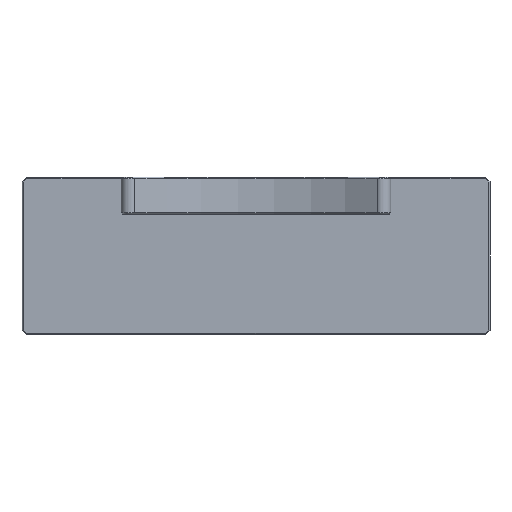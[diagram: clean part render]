
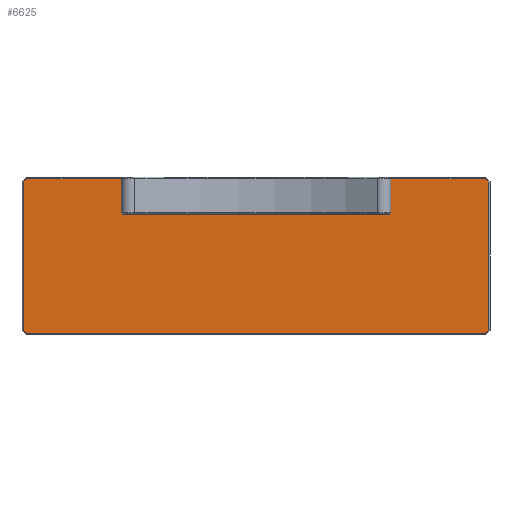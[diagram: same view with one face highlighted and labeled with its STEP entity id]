
A CAD part, front view. The second image highlights one B-rep face of the part: STEP entity #6625.
In plain terms, the highlighted planar face has unit normal (0, -1, 0).
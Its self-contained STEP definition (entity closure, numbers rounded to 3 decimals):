
#225 = CARTESIAN_POINT ( 'NONE',  ( 82., -7.15, -53.793 ) ) ;
#301 = ORIENTED_EDGE ( 'NONE', *, *, #614, .T. ) ;
#323 = EDGE_CURVE ( 'NONE', #6034, #3959, #6259, .T. ) ;
#361 = ORIENTED_EDGE ( 'NONE', *, *, #6556, .T. ) ;
#386 = VERTEX_POINT ( 'NONE', #3147 ) ;
#435 = DIRECTION ( 'NONE',  ( -1., 0., 0. ) ) ;
#437 = VERTEX_POINT ( 'NONE', #2666 ) ;
#477 = CARTESIAN_POINT ( 'NONE',  ( -47.5, -7.15, -12.5 ) ) ;
#529 = EDGE_CURVE ( 'NONE', #757, #2270, #2200, .T. ) ;
#614 = EDGE_CURVE ( 'NONE', #6034, #386, #4853, .T. ) ;
#631 = CARTESIAN_POINT ( 'NONE',  ( -80.793, -7.15, -0.5 ) ) ;
#678 = CARTESIAN_POINT ( 'NONE',  ( -47.5, -7.15, -13. ) ) ;
#757 = VERTEX_POINT ( 'NONE', #6194 ) ;
#806 = ORIENTED_EDGE ( 'NONE', *, *, #5707, .T. ) ;
#817 = CARTESIAN_POINT ( 'NONE',  ( -82.5, -7.15, -55.5 ) ) ;
#999 = VECTOR ( 'NONE', #2769, 1000. ) ;
#1048 = EDGE_CURVE ( 'NONE', #6049, #3030, #6252, .T. ) ;
#1085 = CARTESIAN_POINT ( 'NONE',  ( 47.5, -7.15, -13. ) ) ;
#1107 = LINE ( 'NONE', #5205, #3964 ) ;
#1157 = CARTESIAN_POINT ( 'NONE',  ( -81.396, -7.15, -54.396 ) ) ;
#1242 = CARTESIAN_POINT ( 'NONE',  ( 47.5, -7.15, -0.5 ) ) ;
#1422 = VERTEX_POINT ( 'NONE', #2051 ) ;
#1464 = DIRECTION ( 'NONE',  ( 0., 0., -1. ) ) ;
#1477 = CARTESIAN_POINT ( 'NONE',  ( 26.646, -7.15, 53.646 ) ) ;
#1587 = EDGE_CURVE ( 'NONE', #6733, #757, #5335, .T. ) ;
#1651 = LINE ( 'NONE', #477, #2806 ) ;
#1660 = ORIENTED_EDGE ( 'NONE', *, *, #1048, .T. ) ;
#1665 = VECTOR ( 'NONE', #5668, 1000. ) ;
#1703 = CARTESIAN_POINT ( 'NONE',  ( -47.5, -7.15, -13. ) ) ;
#2021 = EDGE_CURVE ( 'NONE', #1422, #6049, #1651, .T. ) ;
#2051 = CARTESIAN_POINT ( 'NONE',  ( -47., -7.15, -13. ) ) ;
#2063 = VECTOR ( 'NONE', #5484, 1000. ) ;
#2127 = CARTESIAN_POINT ( 'NONE',  ( 80.793, -7.15, -0.5 ) ) ;
#2200 = LINE ( 'NONE', #1157, #5516 ) ;
#2214 = LINE ( 'NONE', #5808, #2879 ) ;
#2248 = ORIENTED_EDGE ( 'NONE', *, *, #3187, .T. ) ;
#2270 = VERTEX_POINT ( 'NONE', #4937 ) ;
#2459 = ORIENTED_EDGE ( 'NONE', *, *, #4884, .T. ) ;
#2485 = LINE ( 'NONE', #5698, #3063 ) ;
#2624 = DIRECTION ( 'NONE',  ( 0., 0., 1. ) ) ;
#2666 = CARTESIAN_POINT ( 'NONE',  ( 80.793, -7.15, -55. ) ) ;
#2701 = CARTESIAN_POINT ( 'NONE',  ( -109.146, -7.15, -28.854 ) ) ;
#2769 = DIRECTION ( 'NONE',  ( -1., 0., 0. ) ) ;
#2787 = EDGE_CURVE ( 'NONE', #4526, #3959, #4320, .T. ) ;
#2806 = VECTOR ( 'NONE', #4196, 1000. ) ;
#2879 = VECTOR ( 'NONE', #2624, 1000. ) ;
#2887 = CARTESIAN_POINT ( 'NONE',  ( 47.5, -7.15, -12.5 ) ) ;
#2932 = VECTOR ( 'NONE', #3374, 1000. ) ;
#3021 = DIRECTION ( 'NONE',  ( 0.707, 0., 0.707 ) ) ;
#3023 = VECTOR ( 'NONE', #4346, 1000. ) ;
#3030 = VERTEX_POINT ( 'NONE', #3892 ) ;
#3063 = VECTOR ( 'NONE', #435, 1000. ) ;
#3066 = LINE ( 'NONE', #4028, #1665 ) ;
#3114 = VECTOR ( 'NONE', #6304, 1000. ) ;
#3147 = CARTESIAN_POINT ( 'NONE',  ( 47., -7.15, -13. ) ) ;
#3187 = EDGE_CURVE ( 'NONE', #5026, #4526, #4670, .T. ) ;
#3257 = VECTOR ( 'NONE', #5209, 1000. ) ;
#3374 = DIRECTION ( 'NONE',  ( -1., 0., 0. ) ) ;
#3444 = VECTOR ( 'NONE', #4503, 1000. ) ;
#3505 = DIRECTION ( 'NONE',  ( 0., -1., 0. ) ) ;
#3665 = VERTEX_POINT ( 'NONE', #631 ) ;
#3727 = ORIENTED_EDGE ( 'NONE', *, *, #529, .T. ) ;
#3892 = CARTESIAN_POINT ( 'NONE',  ( -47.5, -7.15, -0.5 ) ) ;
#3915 = VECTOR ( 'NONE', #5536, 1000. ) ;
#3959 = VERTEX_POINT ( 'NONE', #1242 ) ;
#3964 = VECTOR ( 'NONE', #3021, 1000. ) ;
#3965 = ORIENTED_EDGE ( 'NONE', *, *, #2787, .T. ) ;
#3976 = AXIS2_PLACEMENT_3D ( 'NONE', #817, #3505, #1464 ) ;
#4028 = CARTESIAN_POINT ( 'NONE',  ( 81., -7.15, -55. ) ) ;
#4147 = ORIENTED_EDGE ( 'NONE', *, *, #4830, .T. ) ;
#4196 = DIRECTION ( 'NONE',  ( -0.707, 0., 0.707 ) ) ;
#4212 = CARTESIAN_POINT ( 'NONE',  ( -82., -7.15, -1.707 ) ) ;
#4320 = LINE ( 'NONE', #6491, #2932 ) ;
#4346 = DIRECTION ( 'NONE',  ( 0., 0., 1. ) ) ;
#4360 = LINE ( 'NONE', #2701, #2063 ) ;
#4463 = CARTESIAN_POINT ( 'NONE',  ( -82., -7.15, -55.5 ) ) ;
#4503 = DIRECTION ( 'NONE',  ( -0.707, 0., -0.707 ) ) ;
#4526 = VERTEX_POINT ( 'NONE', #2127 ) ;
#4670 = LINE ( 'NONE', #1477, #3257 ) ;
#4830 = EDGE_CURVE ( 'NONE', #2270, #437, #3066, .T. ) ;
#4853 = LINE ( 'NONE', #2887, #3444 ) ;
#4859 = ORIENTED_EDGE ( 'NONE', *, *, #2021, .T. ) ;
#4884 = EDGE_CURVE ( 'NONE', #3030, #3665, #2485, .T. ) ;
#4898 = EDGE_CURVE ( 'NONE', #437, #5073, #1107, .T. ) ;
#4937 = CARTESIAN_POINT ( 'NONE',  ( -80.793, -7.15, -55. ) ) ;
#5026 = VERTEX_POINT ( 'NONE', #6504 ) ;
#5073 = VERTEX_POINT ( 'NONE', #225 ) ;
#5193 = CARTESIAN_POINT ( 'NONE',  ( 47.5, -7.15, -12.5 ) ) ;
#5205 = CARTESIAN_POINT ( 'NONE',  ( -1.104, -7.15, -136.896 ) ) ;
#5209 = DIRECTION ( 'NONE',  ( -0.707, 0., 0.707 ) ) ;
#5335 = LINE ( 'NONE', #4463, #3915 ) ;
#5484 = DIRECTION ( 'NONE',  ( -0.707, 0., -0.707 ) ) ;
#5516 = VECTOR ( 'NONE', #5920, 1000. ) ;
#5536 = DIRECTION ( 'NONE',  ( 0., 0., -1. ) ) ;
#5668 = DIRECTION ( 'NONE',  ( 1., 0., 0. ) ) ;
#5698 = CARTESIAN_POINT ( 'NONE',  ( -82.5, -7.15, -0.5 ) ) ;
#5707 = EDGE_CURVE ( 'NONE', #3665, #6733, #4360, .T. ) ;
#5726 = CARTESIAN_POINT ( 'NONE',  ( -47.5, -7.15, -12.5 ) ) ;
#5808 = CARTESIAN_POINT ( 'NONE',  ( 82., -7.15, -55.5 ) ) ;
#5920 = DIRECTION ( 'NONE',  ( 0.707, 0., -0.707 ) ) ;
#5937 = LINE ( 'NONE', #678, #999 ) ;
#6034 = VERTEX_POINT ( 'NONE', #5193 ) ;
#6049 = VERTEX_POINT ( 'NONE', #5726 ) ;
#6165 = ORIENTED_EDGE ( 'NONE', *, *, #4898, .T. ) ;
#6194 = CARTESIAN_POINT ( 'NONE',  ( -82., -7.15, -53.793 ) ) ;
#6223 = ORIENTED_EDGE ( 'NONE', *, *, #323, .F. ) ;
#6252 = LINE ( 'NONE', #1703, #3023 ) ;
#6259 = LINE ( 'NONE', #1085, #3114 ) ;
#6304 = DIRECTION ( 'NONE',  ( 0., 0., 1. ) ) ;
#6389 = ORIENTED_EDGE ( 'NONE', *, *, #6809, .T. ) ;
#6434 = FACE_OUTER_BOUND ( 'NONE', #6806, .T. ) ;
#6491 = CARTESIAN_POINT ( 'NONE',  ( -82.5, -7.15, -0.5 ) ) ;
#6504 = CARTESIAN_POINT ( 'NONE',  ( 82., -7.15, -1.707 ) ) ;
#6522 = ORIENTED_EDGE ( 'NONE', *, *, #1587, .T. ) ;
#6556 = EDGE_CURVE ( 'NONE', #386, #1422, #5937, .T. ) ;
#6625 = ADVANCED_FACE ( 'NONE', ( #6434 ), #6661, .T. ) ;
#6661 = PLANE ( 'NONE',  #3976 ) ;
#6733 = VERTEX_POINT ( 'NONE', #4212 ) ;
#6806 = EDGE_LOOP ( 'NONE', ( #1660, #2459, #806, #6522, #3727, #4147, #6165, #6389, #2248, #3965, #6223, #301, #361, #4859 ) ) ;
#6809 = EDGE_CURVE ( 'NONE', #5073, #5026, #2214, .T. ) ;
